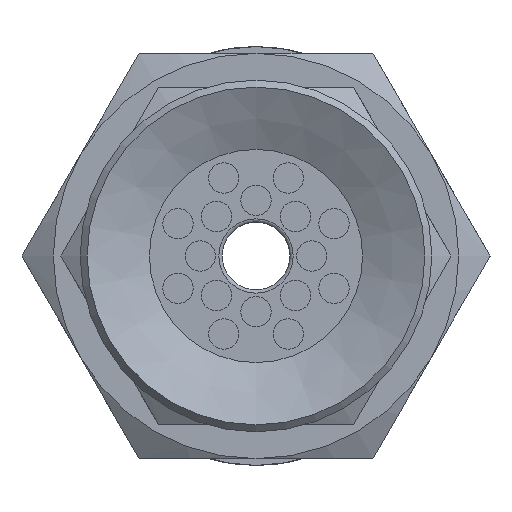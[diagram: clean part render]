
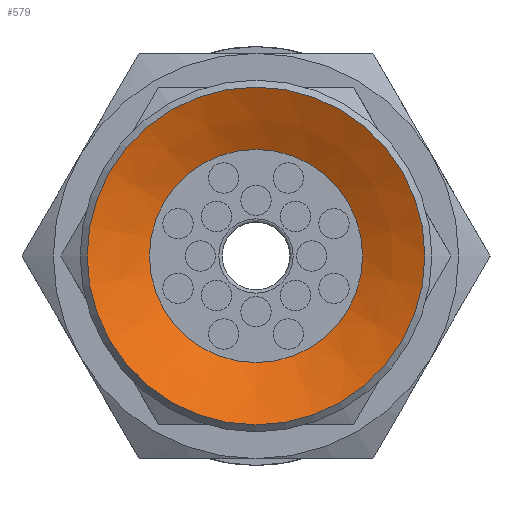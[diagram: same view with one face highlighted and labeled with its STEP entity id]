
A CAD part, front view. The second image highlights one B-rep face of the part: STEP entity #579.
In plain terms, the highlighted conical face has half-angle 64 degrees and reference radius 5 mm.
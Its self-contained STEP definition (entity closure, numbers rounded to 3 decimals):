
#579=ADVANCED_FACE('',(#951,#952),#953,.F.);
#951=FACE_BOUND('',#1617,.T.);
#952=FACE_OUTER_BOUND('',#1618,.T.);
#953=CONICAL_SURFACE('',#1619,5.0,1.117);
#1617=EDGE_LOOP('',(#2550));
#1618=EDGE_LOOP('',(#2551));
#1619=AXIS2_PLACEMENT_3D('',#2552,#2553,#2554);
#2550=ORIENTED_EDGE('',*,*,#3005,.T.);
#2551=ORIENTED_EDGE('',*,*,#3006,.F.);
#2552=CARTESIAN_POINT('',(0.0,0.,0.));
#2553=DIRECTION('',(0.0,0.,-1.0));
#2554=DIRECTION('',(0.0,1.0,0.));
#3005=EDGE_CURVE('',#3433,#3433,#3434,.T.);
#3006=EDGE_CURVE('',#3435,#3435,#3436,.T.);
#3433=VERTEX_POINT('',#4521);
#3434=CIRCLE('',#4522,3.155);
#3435=VERTEX_POINT('',#4523);
#3436=CIRCLE('',#4524,5.0);
#4521=CARTESIAN_POINT('',(0.0,-3.155,0.9));
#4522=AXIS2_PLACEMENT_3D('',#4964,#4965,#4966);
#4523=CARTESIAN_POINT('',(0.0,-5.0,0.));
#4524=AXIS2_PLACEMENT_3D('',#4967,#4968,#4969);
#4964=CARTESIAN_POINT('',(0.0,0.,0.9));
#4965=DIRECTION('',(0.0,0.,1.0));
#4966=DIRECTION('',(0.0,-1.0,0.));
#4967=CARTESIAN_POINT('',(0.0,0.,0.));
#4968=DIRECTION('',(0.0,0.,1.0));
#4969=DIRECTION('',(0.0,-1.0,0.));
